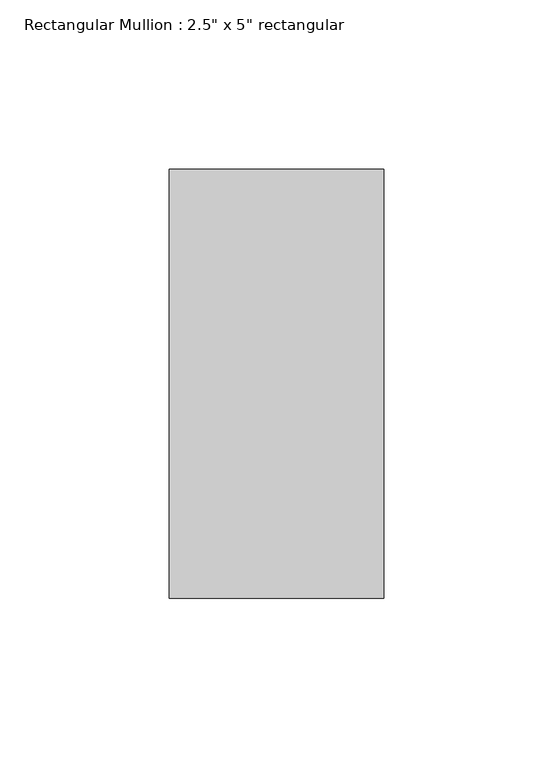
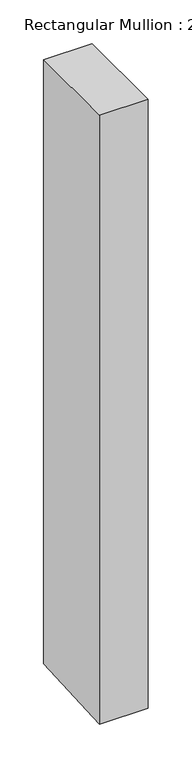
"""IFC4 building model written with IfcOpenShell, lengths in millimetres: member geometry."""

from ifc_helpers import new_model, si_unit, frame, origin, place, context, project, spatial, polyline, outline, extrude, source, transform, mapped, element, save


def member_a3aeaf12(model_context):
    return source(origin(), model_context, "Body", "SweptSolid", [
        extrude(outline(polyline([(-63.5, 0.0), (63.5, 0.0), (63.5, -838.2258037), (-63.5, -844.9514937), (-63.5, 0.0)])), frame((-63.5, 0.0, 0.0), z_axis=(1.0, 0.0, 0.0), x_axis=(0.0, 1.0, 0.0)), (0.0, 0.0, 1.0), 63.5),
    ])


if __name__ == "__main__":
    model = new_model("IFC4")
    model_context = context("Model", 3, world=origin())
    ifc_project = project(units=[si_unit("LENGTHUNIT", "METRE", prefix="MILLI")], contexts=[model_context])
    site = spatial("IfcSite", under=ifc_project)
    building = spatial("IfcBuilding", under=site)
    placement = place(None, origin())
    member_shape = member_a3aeaf12(model_context)
    element("IfcMember", 1, ObjectType="Rectangular Mullion : 2.5\" x 5\" rectangular", at=placement, inside=building, context=model_context, shape_type="MappedRepresentation", body=[
        mapped(member_shape, transform((0.0, 0.0, 0.0), x_axis=(1.0, 0.0, 0.0), y_axis=(0.0, 1.0, 0.0), z_axis=(0.0, 0.0, 1.0))),
    ])
    save(model, "model.ifc")
